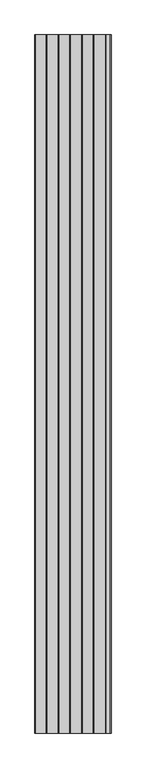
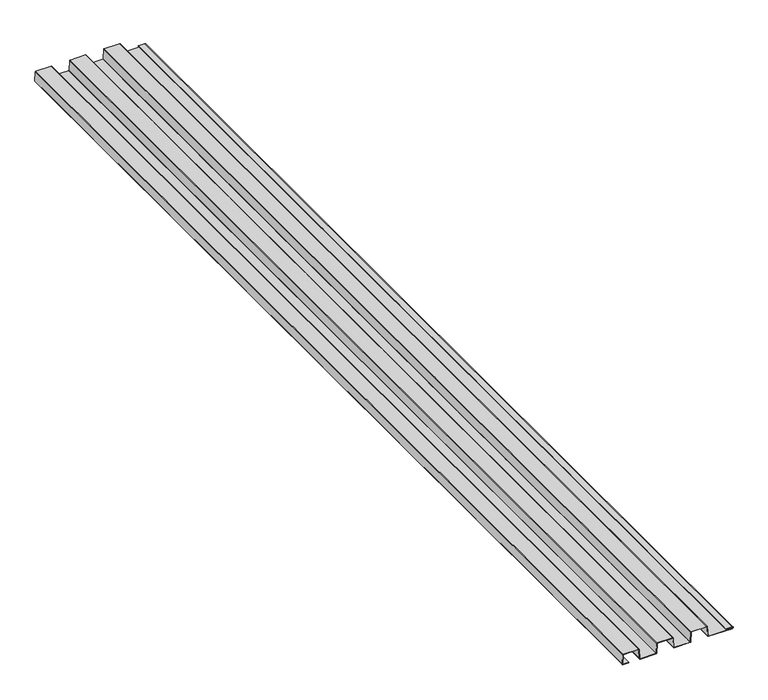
"""IFC4 building model written with IfcOpenShell, lengths in millimetres: proxy geometry."""

from ifc_helpers import new_model, si_unit, frame, origin, place, context, project, spatial, polyline, circle_curve, source, transform, mapped, element, save
from ifc_brep_helpers import plane_surface, cylinder_surface, revolved_surface, advanced_brep


def generic_models_c5291c93(model_context):
    return source(origin(), model_context, "Body", "AdvancedBrep", [
        advanced_brep(
        [(-147.0208018, -3048.0, 0.0), (-147.0208018, -3048.0, 0.89916), (-164.6516633, -3048.0, 0.89916), (-165.1421374, -3048.0, 1.5288532), (-163.6311017, -3048.0, 30.4818934), (-163.1090861, -3048.0, 31.0534335), (-116.3804207, -3048.0, 31.0534335), (-115.8561234, -3048.0, 30.4818029), (-114.2965682, -3048.0, 0.8084911), (-112.6490751, -3048.0, -0.882919), (-64.6280224, -3048.0, -0.882919), (-62.9732478, -3048.0, 0.6574436), (-61.386985, -3048.0, 30.343534), (-60.785919, -3048.0, 31.0534335), (-14.2309539, -3048.0, 31.061436), (-13.636319, -3048.0, 30.4823196), (-12.0624294, -3048.0, 0.6856503), (-10.4135854, -3048.0, -0.8761965), (37.7445845, -3048.0, -0.8761965), (39.2594661, -3048.0, 0.6773492), (40.8626345, -3048.0, 30.4755992), (41.4729162, -3048.0, 31.0539299), (87.9586204, -3048.0, 31.0539299), (88.5694282, -3048.0, 30.4747633), (90.1527332, -3048.0, 0.684755), (91.758804, -3048.0, -0.8759463), (163.1709615, -3048.0, -0.8759463), (162.9897116, -3048.0, 5.6124579), (144.8892697, -3048.0, 5.6186539), (144.7985626, -3048.0, 3.0752921), (156.447698, -3048.0, 3.069101), (156.447698, -3048.0, 3.968261), (144.7985626, -3048.0, 3.968261), (144.7985626, -3048.0, 4.7194939), (162.9897116, -3048.0, 4.7194939), (163.1439577, -3048.0, 0.0232137), (91.8032382, -3048.0, 0.0232137), (91.0534912, -3048.0, 0.7342088), (89.4670052, -3048.0, 30.5284173), (87.9654791, -3048.0, 31.9530899), (41.4279371, -3048.0, 31.9530899), (39.9581479, -3048.0, 30.7630625), (38.3658817, -3048.0, 0.7292945), (37.7026964, -3048.0, 0.0227555), (-10.4172075, -3048.0, 0.0227555), (-11.1678998, -3048.0, 0.7347079), (-12.7445967, -3048.0, 30.529484), (-14.2449655, -3048.0, 31.9525935), (-60.7858153, -3048.0, 31.9525936), (-62.2857877, -3048.0, 30.3635993), (-63.8695226, -3048.0, 0.7354446), (-64.6305992, -3048.0, 0.0178924), (-112.6462601, -3048.0, 0.0178924), (-113.3960325, -3048.0, 0.8161437), (-114.9582035, -3048.0, 30.5290106), (-116.4585973, -3048.0, 31.9525936), (-163.0224327, -3048.0, 31.9525936), (-164.5228397, -3048.0, 30.5287605), (-166.0400593, -3048.0, 1.5760227), (-164.6627939, -3048.0, 0.0), (-147.0208018, 0.0, 0.0), (-164.6627939, 0.0, 0.0), (-166.0400593, 0.0, 1.5760227), (-164.5227142, 0.0, 30.5366316), (-163.0224327, 0.0, 31.9525936), (-116.4541678, 0.0, 31.9525936), (-114.9582035, 0.0, 30.5290106), (-113.3960325, 0.0, 0.8161437), (-112.6462601, 0.0, 0.0178924), (-64.6305992, 0.0, 0.0178924), (-63.8695226, 0.0, 0.7354446), (-62.2857877, 0.0, 30.3635993), (-60.7858153, 0.0, 31.9525936), (-14.2311085, 0.0, 31.960596), (-12.7445967, 0.0, 30.529484), (-11.1678998, 0.0, 0.7347079), (-10.4172075, 0.0, 0.0227555), (37.7026964, 0.0, 0.0227555), (38.3658817, 0.0, 0.7292945), (39.9581479, 0.0, 30.7630625), (41.4279371, 0.0, 31.9530899), (87.9654791, 0.0, 31.9530899), (89.4670052, 0.0, 30.5284173), (91.0534912, 0.0, 0.7342088), (91.8032382, 0.0, 0.0232137), (163.1439577, 0.0, 0.0232137), (162.9897116, 0.0, 4.7194939), (144.7985626, 0.0, 4.7194939), (144.7985626, 0.0, 3.968261), (156.447698, 0.0, 3.968261), (156.447698, 0.0, 3.069101), (144.79898, 0.0, 3.069101), (144.7985626, 0.0, 5.6124627), (162.9899843, 0.0, 5.6186539), (163.1709615, 0.0, -0.8759463), (91.758804, 0.0, -0.8759463), (90.1527332, 0.0, 0.684755), (88.5694282, 0.0, 30.4747633), (87.9586204, 0.0, 31.0539299), (41.4729162, 0.0, 31.0539299), (40.8626345, 0.0, 30.4755992), (39.2594661, 0.0, 0.6773492), (37.7445845, 0.0, -0.8761965), (-10.4135854, 0.0, -0.8761965), (-12.0624294, 0.0, 0.6856503), (-13.636319, 0.0, 30.4823196), (-14.2449655, 0.0, 31.0596248), (-60.785919, 0.0, 31.0534335), (-61.386985, 0.0, 30.343534), (-62.9732478, 0.0, 0.6574436), (-64.6280224, 0.0, -0.882919), (-112.6490751, 0.0, -0.882919), (-114.2965682, 0.0, 0.8084911), (-115.8561234, 0.0, 30.4818029), (-116.3804207, 0.0, 31.0534335), (-163.1090861, 0.0, 31.0534335), (-163.6311017, 0.0, 30.4818934), (-165.1421374, 0.0, 1.5288532), (-164.6516633, 0.0, 0.89916), (-147.0208018, 0.0, 0.89916)],
        [
            (0, 1),
            (1, 2),
            (2, 3, circle_curve(frame((-164.5334684, -3048.0, 1.4970872), z_axis=(0.0, 1.0, 0.0), x_axis=(1.0, 0.0, 0.0)), 0.6094973)),
            (3, 4),
            (4, 5, circle_curve(frame((-163.0224327, -3048.0, 30.4501275), z_axis=(0.0, 1.0, 0.0), x_axis=(1.0, 0.0, 0.0)), 0.6094973)),
            (5, 6),
            (6, 7, circle_curve(frame((-116.4647801, -3048.0, 30.4498024), z_axis=(0.0, 1.0, 0.0), x_axis=(1.0, 0.0, 0.0)), 0.6094973)),
            (7, 8),
            (8, 9, circle_curve(frame((-112.6490751, -3048.0, 0.7651443), z_axis=(0.0, -1.0, 0.0), x_axis=(1.0, 0.0, 0.0)), 1.6480632)),
            (9, 10),
            (10, 11, circle_curve(frame((-64.6280224, -3048.0, 0.7761047), z_axis=(0.0, -1.0, 0.0), x_axis=(1.0, 0.0, 0.0)), 1.6590237)),
            (11, 12),
            (12, 13, circle_curve(frame((-60.7858142, -3048.0, 30.4439362), z_axis=(0.0, 1.0, 0.0), x_axis=(1.0, 0.0, 0.0)), 0.6094973)),
            (13, 14),
            (14, 15, circle_curve(frame((-14.2449655, -3048.0, 30.4501275), z_axis=(0.0, 1.0, 0.0), x_axis=(1.0, 0.0, 0.0)), 0.6094973)),
            (15, 16),
            (16, 17, circle_curve(frame((-10.417444, -3048.0, 0.7709969), z_axis=(0.0, -1.0, 0.0), x_axis=(1.0, 0.0, 0.0)), 1.6471979)),
            (17, 18),
            (18, 19, circle_curve(frame((37.6146776, -3048.0, 0.7658401), z_axis=(0.0, -1.0, 0.0), x_axis=(1.0, 0.0, 0.0)), 1.6471672)),
            (19, 20),
            (20, 21, circle_curve(frame((41.4729162, -3048.0, 30.4427655), z_axis=(0.0, 1.0, 0.0), x_axis=(1.0, 0.0, 0.0)), 0.6111643)),
            (21, 22),
            (22, 23, circle_curve(frame((87.9586204, -3048.0, 30.4422577), z_axis=(0.0, 1.0, 0.0), x_axis=(1.0, 0.0, 0.0)), 0.6116721)),
            (23, 24),
            (24, 25, circle_curve(frame((91.7975847, -3048.0, 0.770692), z_axis=(0.0, -1.0, 0.0), x_axis=(1.0, 0.0, 0.0)), 1.6470949)),
            (25, 26),
            (26, 27, circle_curve(frame((162.9897116, -3048.0, 2.3657242), z_axis=(0.0, -1.0, 0.0), x_axis=(1.0, 0.0, 0.0)), 3.2467336)),
            (27, 28),
            (28, 29, circle_curve(frame((144.7985626, -3048.0, 4.3438774), z_axis=(0.0, -1.0, 0.0), x_axis=(1.0, 0.0, 0.0)), 1.2685853)),
            (29, 30),
            (30, 31),
            (31, 32),
            (32, 33, circle_curve(frame((144.7985626, -3048.0, 4.3438774), z_axis=(0.0, 1.0, 0.0), x_axis=(1.0, 0.0, 0.0)), 0.3756164)),
            (33, 34),
            (34, 35, circle_curve(frame((162.9897116, -3048.0, 2.3688207), z_axis=(0.0, 1.0, 0.0), x_axis=(1.0, 0.0, 0.0)), 2.3506731)),
            (35, 36),
            (36, 37, circle_curve(frame((91.8032382, -3048.0, 0.7740167), z_axis=(0.0, 1.0, 0.0), x_axis=(1.0, 0.0, 0.0)), 0.750803)),
            (37, 38),
            (38, 39, circle_curve(frame((87.9654791, -3048.0, 30.4494908), z_axis=(0.0, -1.0, 0.0), x_axis=(1.0, 0.0, 0.0)), 1.5035991)),
            (39, 40),
            (40, 41, circle_curve(frame((41.4279371, -3048.0, 30.4504163), z_axis=(0.0, -1.0, 0.0), x_axis=(1.0, 0.0, 0.0)), 1.5026736)),
            (41, 42),
            (42, 43, circle_curve(frame((37.6155987, -3048.0, 0.7690243), z_axis=(0.0, 1.0, 0.0), x_axis=(1.0, 0.0, 0.0)), 0.7513342)),
            (43, 44),
            (44, 45, circle_curve(frame((-10.4172075, -3048.0, 0.7745018), z_axis=(0.0, 1.0, 0.0), x_axis=(1.0, 0.0, 0.0)), 0.7517463)),
            (45, 46),
            (46, 47, circle_curve(frame((-14.2449655, -3048.0, 30.4501275), z_axis=(0.0, -1.0, 0.0), x_axis=(1.0, 0.0, 0.0)), 1.502466)),
            (47, 48),
            (48, 49, circle_curve(frame((-60.7858153, -3048.0, 30.4501275), z_axis=(0.0, -1.0, 0.0), x_axis=(1.0, 0.0, 0.0)), 1.5024661)),
            (49, 50),
            (50, 51, circle_curve(frame((-64.6305992, -3048.0, 0.780289), z_axis=(0.0, 1.0, 0.0), x_axis=(1.0, 0.0, 0.0)), 0.7623966)),
            (51, 52),
            (52, 53, circle_curve(frame((-112.6462601, -3048.0, 0.769137), z_axis=(0.0, 1.0, 0.0), x_axis=(1.0, 0.0, 0.0)), 0.7512446)),
            (53, 54),
            (54, 55, circle_curve(frame((-116.4585973, -3048.0, 30.4501275), z_axis=(0.0, -1.0, 0.0), x_axis=(1.0, 0.0, 0.0)), 1.5024661)),
            (55, 56),
            (56, 57, circle_curve(frame((-163.0224327, -3048.0, 30.4501275), z_axis=(0.0, -1.0, 0.0), x_axis=(1.0, 0.0, 0.0)), 1.5024661)),
            (57, 58),
            (58, 59, circle_curve(frame((-164.5396512, -3048.0, 1.4974112), z_axis=(0.0, -1.0, 0.0), x_axis=(1.0, 0.0, 0.0)), 1.5024661)),
            (59, 0),
            (60, 61),
            (61, 62, circle_curve(frame((-164.5396512, 0.0, 1.4974112), z_axis=(0.0, 1.0, 0.0), x_axis=(1.0, 0.0, 0.0)), 1.5024661)),
            (62, 63),
            (63, 64, circle_curve(frame((-163.0224327, 0.0, 30.4501275), z_axis=(0.0, 1.0, 0.0), x_axis=(1.0, 0.0, 0.0)), 1.5024661)),
            (64, 65),
            (65, 66, circle_curve(frame((-116.4585973, 0.0, 30.4501275), z_axis=(0.0, 1.0, 0.0), x_axis=(1.0, 0.0, 0.0)), 1.5024661)),
            (66, 67),
            (67, 68, circle_curve(frame((-112.6462601, 0.0, 0.769137), z_axis=(0.0, -1.0, 0.0), x_axis=(1.0, 0.0, 0.0)), 0.7512446)),
            (68, 69),
            (69, 70, circle_curve(frame((-64.6305992, 0.0, 0.780289), z_axis=(0.0, -1.0, 0.0), x_axis=(1.0, 0.0, 0.0)), 0.7623966)),
            (70, 71),
            (71, 72, circle_curve(frame((-60.7858153, 0.0, 30.4501275), z_axis=(0.0, 1.0, 0.0), x_axis=(1.0, 0.0, 0.0)), 1.5024661)),
            (72, 73),
            (73, 74, circle_curve(frame((-14.2449655, 0.0, 30.4501275), z_axis=(0.0, 1.0, 0.0), x_axis=(1.0, 0.0, 0.0)), 1.502466)),
            (74, 75),
            (75, 76, circle_curve(frame((-10.4172075, 0.0, 0.7745018), z_axis=(0.0, -1.0, 0.0), x_axis=(1.0, 0.0, 0.0)), 0.7517463)),
            (76, 77),
            (77, 78, circle_curve(frame((37.6155987, 0.0, 0.7690243), z_axis=(0.0, -1.0, 0.0), x_axis=(1.0, 0.0, 0.0)), 0.7513342)),
            (78, 79),
            (79, 80, circle_curve(frame((41.4279371, 0.0, 30.4504163), z_axis=(0.0, 1.0, 0.0), x_axis=(1.0, 0.0, 0.0)), 1.5026736)),
            (80, 81),
            (81, 82, circle_curve(frame((87.9654791, 0.0, 30.4494908), z_axis=(0.0, 1.0, 0.0), x_axis=(1.0, 0.0, 0.0)), 1.5035991)),
            (82, 83),
            (83, 84, circle_curve(frame((91.8032382, 0.0, 0.7740167), z_axis=(0.0, -1.0, 0.0), x_axis=(1.0, 0.0, 0.0)), 0.750803)),
            (84, 85),
            (85, 86, circle_curve(frame((162.9897116, 0.0, 2.3688207), z_axis=(0.0, -1.0, 0.0), x_axis=(1.0, 0.0, 0.0)), 2.3506731)),
            (86, 87),
            (87, 88, circle_curve(frame((144.7985626, 0.0, 4.3438774), z_axis=(0.0, -1.0, 0.0), x_axis=(1.0, 0.0, 0.0)), 0.3756164)),
            (88, 89),
            (89, 90),
            (90, 91),
            (91, 92, circle_curve(frame((144.7985626, 0.0, 4.3438774), z_axis=(0.0, 1.0, 0.0), x_axis=(1.0, 0.0, 0.0)), 1.2685853)),
            (92, 93),
            (93, 94, circle_curve(frame((162.9897116, 0.0, 2.3657242), z_axis=(0.0, 1.0, 0.0), x_axis=(1.0, 0.0, 0.0)), 3.2467336)),
            (94, 95),
            (95, 96, circle_curve(frame((91.7975847, 0.0, 0.770692), z_axis=(0.0, 1.0, 0.0), x_axis=(1.0, 0.0, 0.0)), 1.6470949)),
            (96, 97),
            (97, 98, circle_curve(frame((87.9586204, 0.0, 30.4422577), z_axis=(0.0, -1.0, 0.0), x_axis=(1.0, 0.0, 0.0)), 0.6116721)),
            (98, 99),
            (99, 100, circle_curve(frame((41.4729162, 0.0, 30.4427655), z_axis=(0.0, -1.0, 0.0), x_axis=(1.0, 0.0, 0.0)), 0.6111643)),
            (100, 101),
            (101, 102, circle_curve(frame((37.6146776, 0.0, 0.7658401), z_axis=(0.0, 1.0, 0.0), x_axis=(1.0, 0.0, 0.0)), 1.6471672)),
            (102, 103),
            (103, 104, circle_curve(frame((-10.417444, 0.0, 0.7709969), z_axis=(0.0, 1.0, 0.0), x_axis=(1.0, 0.0, 0.0)), 1.6471979)),
            (104, 105),
            (105, 106, circle_curve(frame((-14.2449655, 0.0, 30.4501275), z_axis=(0.0, -1.0, 0.0), x_axis=(1.0, 0.0, 0.0)), 0.6094973)),
            (106, 107),
            (107, 108, circle_curve(frame((-60.7858142, 0.0, 30.4439362), z_axis=(0.0, -1.0, 0.0), x_axis=(1.0, 0.0, 0.0)), 0.6094973)),
            (108, 109),
            (109, 110, circle_curve(frame((-64.6280224, 0.0, 0.7761047), z_axis=(0.0, 1.0, 0.0), x_axis=(1.0, 0.0, 0.0)), 1.6590237)),
            (110, 111),
            (111, 112, circle_curve(frame((-112.6490751, 0.0, 0.7651443), z_axis=(0.0, 1.0, 0.0), x_axis=(1.0, 0.0, 0.0)), 1.6480632)),
            (112, 113),
            (113, 114, circle_curve(frame((-116.4647801, 0.0, 30.4498024), z_axis=(0.0, -1.0, 0.0), x_axis=(1.0, 0.0, 0.0)), 0.6094973)),
            (114, 115),
            (115, 116, circle_curve(frame((-163.0224327, 0.0, 30.4501275), z_axis=(0.0, -1.0, 0.0), x_axis=(1.0, 0.0, 0.0)), 0.6094973)),
            (116, 117),
            (117, 118, circle_curve(frame((-164.5334684, 0.0, 1.4970872), z_axis=(0.0, -1.0, 0.0), x_axis=(1.0, 0.0, 0.0)), 0.6094973)),
            (118, 119),
            (119, 60),
            (0, 60),
            (119, 1),
            (5, 115),
            (114, 6),
            (30, 90),
            (89, 31),
            (88, 32),
            (87, 33),
            (86, 34),
            (85, 35),
            (84, 36),
            (83, 37),
            (82, 38),
            (81, 39),
            (80, 40),
            (79, 41),
            (78, 42),
            (77, 43),
            (76, 44),
            (75, 45),
            (74, 46),
            (73, 47),
            (72, 48),
            (71, 49),
            (70, 50),
            (69, 51),
            (68, 52),
            (67, 53),
            (66, 54),
            (65, 55),
            (64, 56),
            (63, 57),
            (62, 58),
            (61, 59),
            (118, 2),
            (117, 3),
            (116, 4),
            (113, 7),
            (112, 8),
            (111, 9),
            (110, 10),
            (109, 11),
            (108, 12),
            (107, 13),
            (106, 14),
            (105, 15),
            (104, 16),
            (103, 17),
            (102, 18),
            (101, 19),
            (100, 20),
            (21, 99),
            (98, 22),
            (97, 23),
            (96, 24),
            (95, 25),
            (94, 26),
            (93, 27),
            (92, 28),
            (91, 29),
        ],
        [
            plane_surface(frame((-147.0208018, -3048.0, 0.89916), z_axis=(0.0, -1.0, 0.0), x_axis=(0.0, 0.0, 1.0))),
            plane_surface(frame((-147.0208018, 0.0, 0.89916), z_axis=(0.0, 1.0, 0.0), x_axis=(0.0, 0.0, -1.0))),
            plane_surface(frame((-147.0208018, -3048.0, 0.0), z_axis=(1.0, 0.0, 0.0), x_axis=(0.0, 1.0, 0.0))),
            plane_surface(frame((-163.1090861, -3048.0, 31.0534335), z_axis=(0.0, 0.0, -1.0), x_axis=(0.0, 1.0, 0.0))),
            plane_surface(frame((156.447698, -3048.0, 3.069101), z_axis=(1.0, 0.0, 0.0), x_axis=(0.0, 1.0, 0.0))),
            plane_surface(frame((156.447698, -3048.0, 3.968261), z_axis=(0.0, 0.0, 1.0), x_axis=(0.0, 1.0, 0.0))),
            revolved_surface(polyline([(145.174179, 0.0, 4.3438774), (145.174179, -3048.0, 4.3438774)]), (144.7985626, 0.0, 4.3438774), (0.0, 1.0, 0.0)),
            plane_surface(frame((144.7985626, -3048.0, 4.7194939), z_axis=(0.0, 0.0, -1.0), x_axis=(0.0, 1.0, 0.0))),
            revolved_surface(polyline([(165.3403847, 0.0, 2.3688207), (165.3403847, -3048.0, 2.3688207)]), (162.9897116, 0.0, 2.3688207), (0.0, 1.0, 0.0)),
            plane_surface(frame((163.1439577, -3048.0, 0.0232137), z_axis=(0.0, 0.0, 1.0), x_axis=(0.0, 1.0, 0.0))),
            revolved_surface(polyline([(92.5540412, 0.0, 0.7740167), (92.5540412, -3048.0, 0.7740167)]), (91.8032382, 0.0, 0.7740167), (0.0, 1.0, 0.0)),
            plane_surface(frame((91.0534912, -3048.0, 0.7342088), z_axis=(0.9985853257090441, 0.0, 0.053172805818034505), x_axis=(0.0, 1.0, 0.0))),
            cylinder_surface(frame((87.9654791, 0.0, 30.4494908), z_axis=(0.0, -1.0, 0.0), x_axis=(1.0, 0.0, 0.0)), 1.5035991),
            plane_surface(frame((87.9654791, -3048.0, 31.9530899), z_axis=(0.0, 0.0, 1.0), x_axis=(0.0, 1.0, 0.0))),
            cylinder_surface(frame((41.4279371, 0.0, 30.4504163), z_axis=(0.0, -1.0, 0.0), x_axis=(1.0, 0.0, 0.0)), 1.5026736),
            plane_surface(frame((39.9581479, -3048.0, 30.7630625), z_axis=(-0.9985976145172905, 0.0, 0.05294151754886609), x_axis=(0.0, 1.0, 0.0))),
            revolved_surface(polyline([(38.3669329, 0.0, 0.7690243), (38.3669329, -3048.0, 0.7690243)]), (37.6155987, 0.0, 0.7690243), (0.0, 1.0, 0.0)),
            plane_surface(frame((37.7026964, -3048.0, 0.0227555), z_axis=(0.0, 0.0, 1.0), x_axis=(0.0, 1.0, 0.0))),
            revolved_surface(polyline([(-9.6654612, 0.0, 0.7745018), (-9.6654612, -3048.0, 0.7745018)]), (-10.4172075, 0.0, 0.7745018), (0.0, 1.0, 0.0)),
            plane_surface(frame((-11.1678998, -3048.0, 0.7347079), z_axis=(0.9986027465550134, 0.0, 0.05284462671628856), x_axis=(0.0, 1.0, 0.0))),
            cylinder_surface(frame((-14.2449655, 0.0, 30.4501275), z_axis=(0.0, -1.0, 0.0), x_axis=(1.0, 0.0, 0.0)), 1.502466),
            plane_surface(frame((-14.2311085, -3048.0, 31.960596), z_axis=(-0.00017189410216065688, 0.0, 0.9999999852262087), x_axis=(0.0, 1.0, 0.0))),
            cylinder_surface(frame((-60.7858153, 0.0, 30.4501275), z_axis=(0.0, -1.0, 0.0), x_axis=(1.0, 0.0, 0.0)), 1.5024661),
            plane_surface(frame((-62.2857877, -3048.0, 30.3635993), z_axis=(-0.9985744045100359, 0.0, 0.05337751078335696), x_axis=(0.0, 1.0, 0.0))),
            revolved_surface(polyline([(-63.868202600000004, 0.0, 0.780289), (-63.868202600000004, -3048.0, 0.780289)]), (-64.6305992, 0.0, 0.780289), (0.0, 1.0, 0.0)),
            plane_surface(frame((-64.6305992, -3048.0, 0.0178924), z_axis=(0.0, 0.0, 1.0), x_axis=(0.0, 1.0, 0.0))),
            revolved_surface(polyline([(-111.8950155, 0.0, 0.769137), (-111.8950155, -3048.0, 0.769137)]), (-112.6462601, 0.0, 0.769137), (0.0, 1.0, 0.0)),
            plane_surface(frame((-113.3960325, -3048.0, 0.8161437), z_axis=(0.9986207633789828, 0.0, 0.052503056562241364), x_axis=(0.0, 1.0, 0.0))),
            cylinder_surface(frame((-116.4585973, 0.0, 30.4501275), z_axis=(0.0, -1.0, 0.0), x_axis=(1.0, 0.0, 0.0)), 1.5024661),
            plane_surface(frame((-116.4541678, -3048.0, 31.9525936), z_axis=(0.0, 0.0, 1.0), x_axis=(0.0, 1.0, 0.0))),
            cylinder_surface(frame((-163.0224327, 0.0, 30.4501275), z_axis=(0.0, -1.0, 0.0), x_axis=(1.0, 0.0, 0.0)), 1.5024661),
            plane_surface(frame((-164.5227142, -3048.0, 30.5366316), z_axis=(-0.9986302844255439, 0.0, 0.05232164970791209), x_axis=(0.0, 1.0, 0.0))),
            cylinder_surface(frame((-164.5396512, 0.0, 1.4974112), z_axis=(0.0, -1.0, 0.0), x_axis=(1.0, 0.0, 0.0)), 1.5024661),
            plane_surface(frame((-164.6627939, -3048.0, 0.0), z_axis=(2.7184817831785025e-12, 0.0, -1.0), x_axis=(0.0, 1.0, 0.0))),
            plane_surface(frame((-147.0208018, -3048.0, 0.89916), z_axis=(0.0, 0.0, 1.0), x_axis=(0.0, 1.0, 0.0))),
            revolved_surface(polyline([(-163.92397110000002, 0.0, 1.4970872), (-163.92397110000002, -3048.0, 1.4970872)]), (-164.5334684, 0.0, 1.4970872), (0.0, 1.0, 0.0)),
            plane_surface(frame((-165.1421374, -3048.0, 1.5288532), z_axis=(0.9986409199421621, 0.0, -0.05211825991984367), x_axis=(0.0, 1.0, 0.0))),
            revolved_surface(polyline([(-115.8552828, 0.0, 30.4498024), (-115.8552828, -3048.0, 30.4498024)]), (-116.4647801, 0.0, 30.4498024), (0.0, 1.0, 0.0)),
            plane_surface(frame((-115.8561234, -3048.0, 30.4818029), z_axis=(-0.9986217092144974, 0.0, -0.05248506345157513), x_axis=(0.0, 1.0, 0.0))),
            cylinder_surface(frame((-112.6490751, 0.0, 0.7651443), z_axis=(0.0, -1.0, 0.0), x_axis=(1.0, 0.0, 0.0)), 1.6480632),
            plane_surface(frame((-112.6490751, -3048.0, -0.882919), z_axis=(0.0, 0.0, -1.0), x_axis=(0.0, 1.0, 0.0))),
            cylinder_surface(frame((-64.6280224, 0.0, 0.7761047), z_axis=(0.0, -1.0, 0.0), x_axis=(1.0, 0.0, 0.0)), 1.6590237),
            plane_surface(frame((-62.9732478, -3048.0, 0.6574436), z_axis=(0.9985754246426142, 0.0, -0.053358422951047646), x_axis=(0.0, 1.0, 0.0))),
            revolved_surface(polyline([(-60.176316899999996, 0.0, 30.4439362), (-60.176316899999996, -3048.0, 30.4439362)]), (-60.7858142, 0.0, 30.4439362), (0.0, 1.0, 0.0)),
            plane_surface(frame((-60.785919, -3048.0, 31.0534335), z_axis=(0.00017189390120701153, 0.0, -0.9999999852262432), x_axis=(0.0, 1.0, 0.0))),
            revolved_surface(polyline([(-13.6354682, 0.0, 30.4501275), (-13.6354682, -3048.0, 30.4501275)]), (-14.2449655, 0.0, 30.4501275), (0.0, 1.0, 0.0)),
            plane_surface(frame((-13.636319, -3048.0, 30.4823196), z_axis=(-0.9986078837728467, 0.0, -0.05274745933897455), x_axis=(0.0, 1.0, 0.0))),
            cylinder_surface(frame((-10.417444, 0.0, 0.7709969), z_axis=(0.0, -1.0, 0.0), x_axis=(1.0, 0.0, 0.0)), 1.6471979),
            plane_surface(frame((-10.4135854, -3048.0, -0.8761965), z_axis=(0.0, 0.0, -1.0), x_axis=(0.0, 1.0, 0.0))),
            cylinder_surface(frame((37.6146776, 0.0, 0.7658401), z_axis=(0.0, -1.0, 0.0), x_axis=(1.0, 0.0, 0.0)), 1.6471672),
            plane_surface(frame((39.2594661, -3048.0, 0.6773492), z_axis=(0.9985558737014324, 0.0, -0.05372305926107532), x_axis=(0.0, 1.0, 0.0))),
            plane_surface(frame((41.4729162, -3048.0, 31.0539299), z_axis=(0.0, 0.0, -1.0), x_axis=(0.0, 1.0, 0.0))),
            revolved_surface(polyline([(88.57029250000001, 0.0, 30.4422577), (88.57029250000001, -3048.0, 30.4422577)]), (87.9586204, 0.0, 30.4422577), (0.0, 1.0, 0.0)),
            plane_surface(frame((88.5694282, -3048.0, 30.4747633), z_axis=(-0.9985905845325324, 0.0, -0.05307395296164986), x_axis=(0.0, 1.0, 0.0))),
            cylinder_surface(frame((91.7975847, 0.0, 0.770692), z_axis=(0.0, -1.0, 0.0), x_axis=(1.0, 0.0, 0.0)), 1.6470949),
            plane_surface(frame((91.758804, -3048.0, -0.8759463), z_axis=(0.0, 0.0, -1.0), x_axis=(0.0, 1.0, 0.0))),
            cylinder_surface(frame((162.9897116, 0.0, 2.3657242), z_axis=(0.0, -1.0, 0.0), x_axis=(1.0, 0.0, 0.0)), 3.2467336),
            plane_surface(frame((162.9899843, -3048.0, 5.6186539), z_axis=(0.0, 0.0, 1.0), x_axis=(0.0, 1.0, 0.0))),
            cylinder_surface(frame((144.7985626, 0.0, 4.3438774), z_axis=(0.0, -1.0, 0.0), x_axis=(1.0, 0.0, 0.0)), 1.2685853),
            plane_surface(frame((144.79898, -3048.0, 3.069101), z_axis=(0.0, 0.0, -1.0), x_axis=(0.0, 1.0, 0.0))),
            revolved_surface(polyline([(-162.4129354, 0.0, 30.4501275), (-162.4129354, -3048.0, 30.4501275)]), (-163.0224327, 0.0, 30.4501275), (0.0, 1.0, 0.0)),
            revolved_surface(polyline([(42.0840805, 0.0, 30.4427655), (42.0840805, -3048.0, 30.4427655)]), (41.4729162, 0.0, 30.4427655), (0.0, 1.0, 0.0)),
        ],
        [
            (0, [[1, 2, 3, 4, 5, 6, 7, 8, 9, 10, 11, 12, 13, 14, 15, 16, 17, 18, 19, 20, 21, 22, 23, 24, 25, 26, 27, 28, 29, 30, 31, 32, 33, 34, 35, 36, 37, 38, 39, 40, 41, 42, 43, 44, 45, 46, 47, 48, 49, 50, 51, 52, 53, 54, 55, 56, 57, 58, 59, 60]]),
            (1, [[61, 62, 63, 64, 65, 66, 67, 68, 69, 70, 71, 72, 73, 74, 75, 76, 77, 78, 79, 80, 81, 82, 83, 84, 85, 86, 87, 88, 89, 90, 91, 92, 93, 94, 95, 96, 97, 98, 99, 100, 101, 102, 103, 104, 105, 106, 107, 108, 109, 110, 111, 112, 113, 114, 115, 116, 117, 118, 119, 120]]),
            (2, [[-1, 121, -120, 122]]),
            (3, [[-6, 123, -115, 124]]),
            (4, [[-31, 125, -90, 126]]),
            (5, [[-32, -126, -89, 127]]),
            (6, [[-33, -127, -88, 128]]),
            (7, [[-34, -128, -87, 129]]),
            (8, [[-35, -129, -86, 130]]),
            (9, [[-36, -130, -85, 131]]),
            (10, [[-37, -131, -84, 132]]),
            (11, [[-38, -132, -83, 133]]),
            (12, [[-39, -133, -82, 134]]),
            (13, [[-40, -134, -81, 135]]),
            (14, [[-41, -135, -80, 136]]),
            (15, [[-42, -136, -79, 137]]),
            (16, [[-43, -137, -78, 138]]),
            (17, [[-44, -138, -77, 139]]),
            (18, [[-45, -139, -76, 140]]),
            (19, [[-46, -140, -75, 141]]),
            (20, [[-47, -141, -74, 142]]),
            (21, [[-48, -142, -73, 143]]),
            (22, [[-49, -143, -72, 144]]),
            (23, [[-50, -144, -71, 145]]),
            (24, [[-51, -145, -70, 146]]),
            (25, [[-52, -146, -69, 147]]),
            (26, [[-53, -147, -68, 148]]),
            (27, [[-54, -148, -67, 149]]),
            (28, [[-55, -149, -66, 150]]),
            (29, [[-56, -150, -65, 151]]),
            (30, [[-57, -151, -64, 152]]),
            (31, [[-58, -152, -63, 153]]),
            (32, [[-59, -153, -62, 154]]),
            (33, [[-60, -154, -61, -121]]),
            (34, [[-2, -122, -119, 155]]),
            (35, [[-3, -155, -118, 156]]),
            (36, [[-4, -156, -117, 157]]),
            (37, [[-7, -124, -114, 158]]),
            (38, [[-8, -158, -113, 159]]),
            (39, [[-9, -159, -112, 160]]),
            (40, [[-10, -160, -111, 161]]),
            (41, [[-11, -161, -110, 162]]),
            (42, [[-12, -162, -109, 163]]),
            (43, [[-13, -163, -108, 164]]),
            (44, [[-14, -164, -107, 165]]),
            (45, [[-15, -165, -106, 166]]),
            (46, [[-16, -166, -105, 167]]),
            (47, [[-17, -167, -104, 168]]),
            (48, [[-18, -168, -103, 169]]),
            (49, [[-19, -169, -102, 170]]),
            (50, [[-20, -170, -101, 171]]),
            (51, [[-22, 172, -99, 173]]),
            (52, [[-23, -173, -98, 174]]),
            (53, [[-24, -174, -97, 175]]),
            (54, [[-25, -175, -96, 176]]),
            (55, [[-26, -176, -95, 177]]),
            (56, [[-27, -177, -94, 178]]),
            (57, [[-28, -178, -93, 179]]),
            (58, [[-29, -179, -92, 180]]),
            (59, [[-30, -180, -91, -125]]),
            (60, [[-5, -157, -116, -123]]),
            (61, [[-21, -171, -100, -172]]),
        ],
    ),
    ])


if __name__ == "__main__":
    model = new_model("IFC4")
    model_context = context("Model", 3, world=origin())
    ifc_project = project(units=[si_unit("LENGTHUNIT", "METRE", prefix="MILLI")], contexts=[model_context])
    site = spatial("IfcSite", under=ifc_project)
    building = spatial("IfcBuilding", under=site)
    placement = place(None, origin())
    generic_models_shape = generic_models_c5291c93(model_context)
    element("IfcBuildingElementProxy", 1, Name="Flex-Series_1.2FX10-12c_Panel_AEP_Span : 12\" Flex Series 1.2FX10-12c - 20GA", ObjectType="Flex-Series_1.2FX10-12c_Panel_AEP_Span : 12\" Flex Series 1.2FX10-12c - 20GA", at=placement, inside=building, context=model_context, shape_type="MappedRepresentation", body=[
        mapped(generic_models_shape, transform((0.0, 0.0, 0.0), x_axis=(1.0, 0.0, 0.0), y_axis=(0.0, 1.0, 0.0), z_axis=(0.0, 0.0, 1.0))),
    ])
    save(model, "model.ifc")
